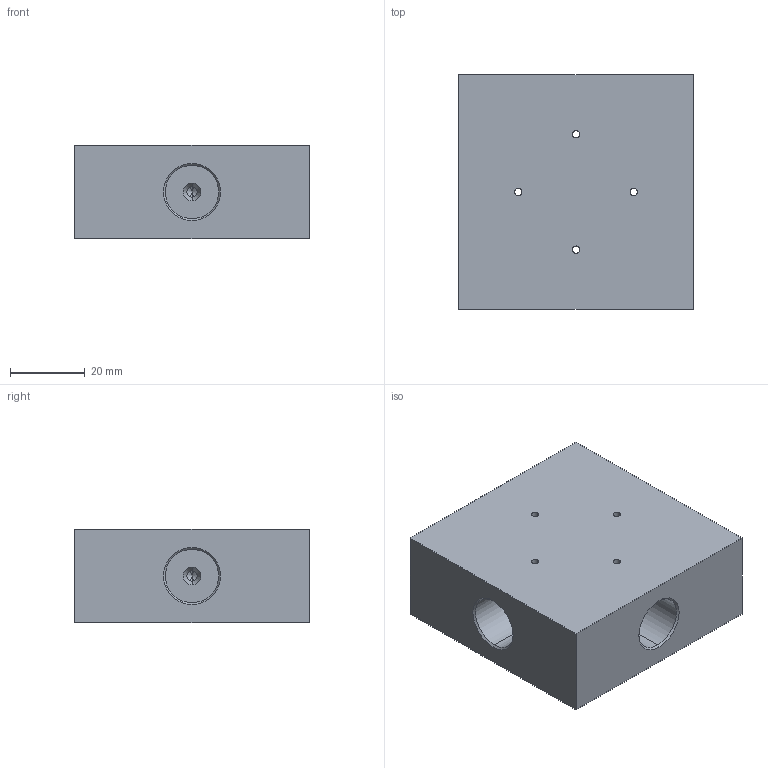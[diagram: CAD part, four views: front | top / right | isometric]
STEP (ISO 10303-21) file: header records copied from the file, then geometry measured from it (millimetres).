
FILE_DESCRIPTION (( 'STEP AP203' ), '1' );
FILE_NAME ('FT100CS04.STEP', '2026-06-26T00:51:58', ( 'USER' ), ( '' ), 'SwSTEP 2.0', 'SolidWorks 2023', '' );
FILE_SCHEMA (( 'CONFIG_CONTROL_DESIGN' ));
Length unit declared in the file: millimetre
Products named in the file (1): FT100CS04
Bounding box: 63 x 63 x 25 mm (x, y, z)
Volume: 87570.1 mm3; surface area: 17863 mm2
Topology: 1 solids, 1 shells, 66 faces, 172 edges, 100 vertices
Faces by surface type: cylinder 32, cone 24, plane 10
Entity records: 2289 total; most frequent: CARTESIAN_POINT 611, DIRECTION 338, ORIENTED_EDGE 328, EDGE_CURVE 164, AXIS2_PLACEMENT_3D 131, VERTEX_POINT 100, EDGE_LOOP 82, VECTOR 76
